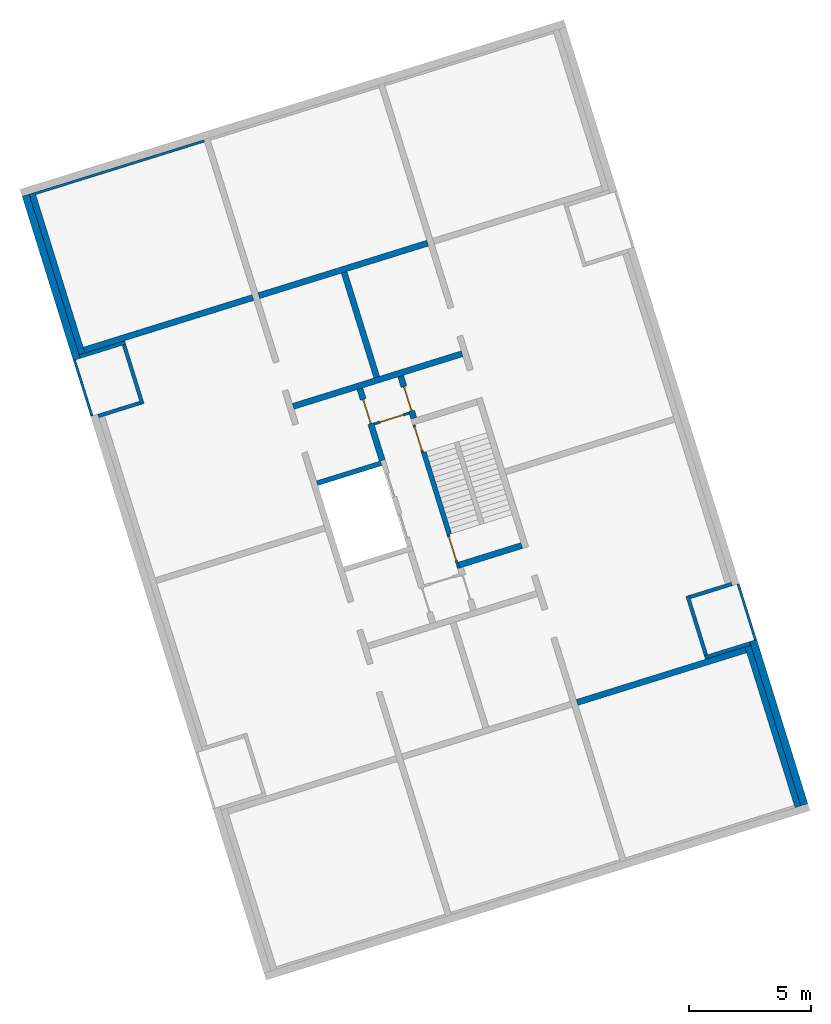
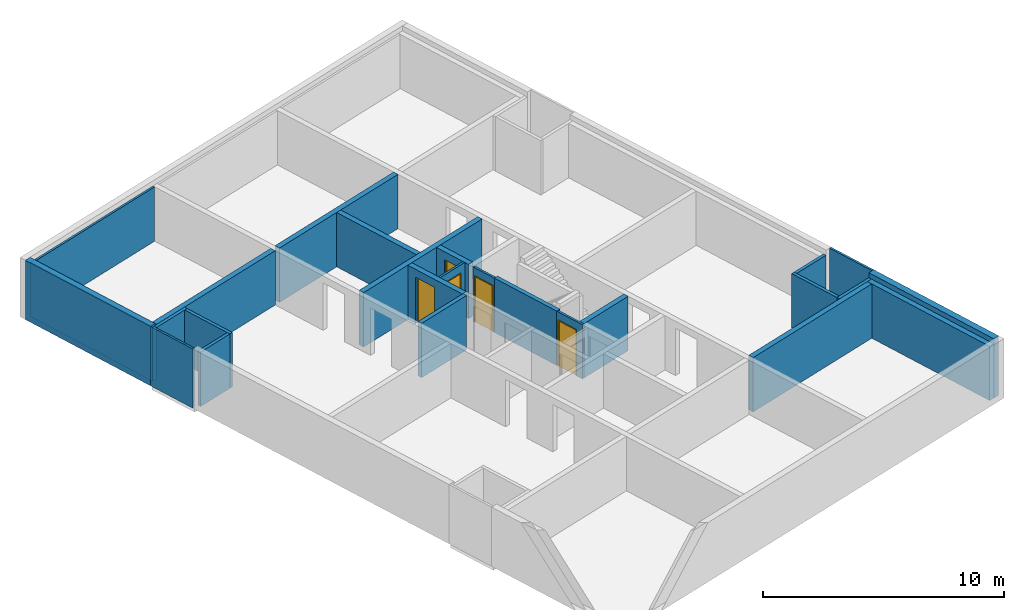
# One storey, part 2 of 4: 26 walls, 5 doors, 5 openings.
"""IFC4 building model written with IfcOpenShell, lengths in metres."""

from ifc_helpers import new_model, entity, si_unit, converted_unit, direction, frame, origin, place, context, subcontext, project, spatial, indexed_curve, outline, extrude, polygons, source, transform, mapped, material, constituent, constituent_set, type_object, type_shapes, element, fill, save


model = new_model("IFC4")

# Units and contexts
model_context = context("Model", 3, precision=1e-05, world=origin(), true_north=direction((6.12323399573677e-17, 1.0)))
body_context = subcontext(model_context, "Body", "Model", "MODEL_VIEW")
ifc_project = project(units=[si_unit("LENGTHUNIT", "METRE"), si_unit("AREAUNIT", "SQUARE_METRE"), si_unit("VOLUMEUNIT", "CUBIC_METRE"), converted_unit("PLANEANGLEUNIT", "DEGREE", entity("IfcPlaneAngleMeasure", 0.0174532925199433), si_unit("PLANEANGLEUNIT", "RADIAN"), dimensions=[0, 0, 0, 0, 0, 0, 0])], contexts=[model_context])

# Site, building, storey
site_placement = place(None, frame((13.1347999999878, 11.9886000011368, 0.0), z_axis=(0.0, 0.0, 1.0), x_axis=(0.954770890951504, 0.297342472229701, 0.0)))
site = spatial("IfcSite", under=ifc_project, at=site_placement, Name="Schiehaven", CompositionType="ELEMENT")
building_placement = place(site_placement, origin())
building = spatial("IfcBuilding", under=site, at=building_placement, Name="VORM huis", CompositionType="ELEMENT")
storey_placement = place(building_placement, frame((0.0, 0.0, 3.9)))
storey = spatial("IfcBuildingStorey", under=building, at=storey_placement, Name="01 eerste verdieping", CompositionType="ELEMENT", Elevation=3.9)

# Walls
ifc_material_1 = material(Name="beton_gewapend_ihw", Category="Miscellaneous")
wall_type_1 = type_object("IfcWallType", Name="Basic Wall:28_WA_skelet_wand 250mm_gen", PredefinedType="STANDARD")
wall_1_placement = place(storey_placement, frame((12.6250000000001, 22.2, 0.0)))
element("IfcWall", 1, at=wall_1_placement, inside=storey, type_object=wall_type_1, material=ifc_material_1, Name="Constructieve wand", ObjectType="Wand", PredefinedType="NOTDEFINED", context=body_context, shape_type="SweptSolid", body=[
    extrude(outline(indexed_curve([(7.25000000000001, 0.125000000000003), (-4.73312500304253e-16, 0.125000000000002), (4.73312500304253e-16, -0.125000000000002), (7.25000000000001, -0.125), (7.25000000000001, 0.125000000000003)], self_intersect=False)), origin(), (0.0, 0.0, 1.0), 2.75),
])
wall_2_placement = place(storey_placement, frame((5.0, 26.825, 0.0), z_axis=(0.0, 0.0, 1.0), x_axis=(0.0, 1.0, 0.0)))
element("IfcWall", 2, at=wall_2_placement, inside=storey, type_object=wall_type_1, material=ifc_material_1, Name="Constructieve wand", ObjectType="Wand", PredefinedType="NOTDEFINED", context=body_context, shape_type="SweptSolid", body=[
    extrude(outline(indexed_curve([(6.90000000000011, 0.125), (-6.66983376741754e-16, 0.125), (6.66983376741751e-16, -0.125), (6.90000000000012, -0.125), (6.90000000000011, 0.125)], self_intersect=False)), origin(), (0.0, 0.0, 1.0), 2.75),
])
wall_3_placement = place(storey_placement, frame((27.5000000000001, 0.37499999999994, 0.0), z_axis=(0.0, 0.0, 1.0), x_axis=(0.0, 1.0, 0.0)))
element("IfcWall", 3, at=wall_3_placement, inside=storey, type_object=wall_type_1, material=ifc_material_1, Name="Constructieve wand", ObjectType="Wand", PredefinedType="NOTDEFINED", context=body_context, shape_type="SweptSolid", body=[
    extrude(outline(indexed_curve([(6.90000000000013, 0.125000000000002), (7.84686325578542e-17, 0.125000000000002), (-7.84686325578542e-17, -0.125000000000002), (6.90000000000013, -0.125000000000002), (6.90000000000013, 0.125000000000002)], self_intersect=False)), origin(), (0.0, 0.0, 1.0), 2.75),
])
ifc_material_2 = material(Name="ntb_ntb_ntb", Category="Miscellaneous")
wall_type_2 = type_object("IfcWallType", Name="Basic Wall:21_WA_gevel_binnenspouwwand 100mm_gen", PredefinedType="STANDARD")
wall_4_placement = place(storey_placement, frame((5.12500000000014, 33.675, 0.0)))
element("IfcWall", 4, at=wall_4_placement, inside=storey, type_object=wall_type_2, material=ifc_material_2, Name="Binnenspouwblad", ObjectType="Wand", PredefinedType="NOTDEFINED", context=body_context, shape_type="SweptSolid", body=[
    extrude(outline(indexed_curve([(7.24999999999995, 0.0500000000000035), (-1.62265042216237e-16, 0.0500000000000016), (1.62265042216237e-16, -0.0500000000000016), (7.24999999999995, -0.0499999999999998), (7.24999999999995, 0.0500000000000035)], self_intersect=False)), origin(), (0.0, 0.0, 1.0), 2.75),
])
wall_type_3 = type_object("IfcWallType", Name="Basic Wall: 300mm_gen", PredefinedType="STANDARD")
wall_5_placement = place(storey_placement, frame((4.7250000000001, 26.675, 0.0), z_axis=(0.0, 0.0, 1.0), x_axis=(0.0, 1.0, 0.0)))
element("IfcWall", 5, at=wall_5_placement, inside=storey, type_object=wall_type_3, material=ifc_material_2, Name="Gevelwand", ObjectType="Wand", PredefinedType="NOTDEFINED", context=body_context, shape_type="SweptSolid", body=[
    extrude(outline(indexed_curve([(7.04999999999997, 0.15), (-3.15836246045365e-16, 0.15), (3.15836246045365e-16, -0.15), (7.04999999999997, -0.15), (7.04999999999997, 0.15)], self_intersect=False)), origin(), (0.0, 0.0, 1.0), 3.0),
])
wall_6_placement = place(storey_placement, frame((27.7750000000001, 0.374999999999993, 0.0), z_axis=(0.0, 0.0, 1.0), x_axis=(0.0, 1.0, 0.0)))
element("IfcWall", 6, at=wall_6_placement, inside=storey, type_object=wall_type_3, material=ifc_material_2, Name="Gevelwand", ObjectType="Wand", PredefinedType="NOTDEFINED", context=body_context, shape_type="SweptSolid", body=[
    extrude(outline(indexed_curve([(7.05000000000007, 0.15), (9.02389274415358e-17, 0.150000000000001), (-9.02389274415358e-17, -0.150000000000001), (7.05000000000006, -0.150000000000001), (7.05000000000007, 0.15)], self_intersect=False)), origin(), (0.0, 0.0, 1.0), 3.0),
])
ifc_material_3 = material(Name="beton_gewapend_prefab-element", Category="Miscellaneous")
wall_type_4 = type_object("IfcWallType", Name="Basic Wall:28_WA_skelet_wand 200mm_gen", PredefinedType="STANDARD")
wall_7_placement = place(storey_placement, frame((15.3750000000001, 18.9, 0.0), z_axis=(0.0, 0.0, 1.0), x_axis=(-1.0, 0.0, 0.0)))
element("IfcWall", 7, at=wall_7_placement, inside=storey, type_object=wall_type_4, material=ifc_material_3, Name="Constructieve wand", ObjectType="Wand", PredefinedType="NOTDEFINED", context=body_context, shape_type="SweptSolid", body=[
    extrude(outline(indexed_curve([(2.75, 0.100000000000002), (-2.05391259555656e-16, 0.100000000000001), (2.05391259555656e-16, -0.100000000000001), (2.75, -0.0999999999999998), (2.75, 0.100000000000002)], self_intersect=False)), origin(), (0.0, 0.0, 1.0), 2.75),
])
wall_8_placement = place(storey_placement, frame((17.1750000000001, 15.29, 0.0), z_axis=(0.0, 0.0, 1.0), x_axis=(0.0, 1.0, 0.0)))
element("IfcWall", 8, at=wall_8_placement, inside=storey, type_object=wall_type_4, material=ifc_material_3, Name="Constructieve wand", ObjectType="Wand", PredefinedType="NOTDEFINED", context=body_context, shape_type="SweptSolid", body=[
    extrude(outline(indexed_curve([(3.52, 0.0999999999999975), (-5.13023966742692e-16, 0.0999999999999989), (5.13023966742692e-16, -0.0999999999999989), (3.52, -0.1), (3.52, 0.0999999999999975)], self_intersect=False)), origin(), (0.0, 0.0, 1.0), 2.75),
])

# Wall, opening, door
wall_type_5 = type_object("IfcWallType", Name="Basic Wall:22_WA_afbouw_binnenwand 250mm_gen", PredefinedType="STANDARD")
wall_9_placement = place(storey_placement, frame((17.2000000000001, 20.26, 0.0), z_axis=(0.0, 0.0, 1.0), x_axis=(0.0, 1.0, 0.0)))
wall_9 = element("IfcWall", 9, at=wall_9_placement, inside=storey, type_object=wall_type_5, material=ifc_material_2, Name="Binnenwand", ObjectType="Wand", PredefinedType="NOTDEFINED", context=body_context, shape_type="Tessellation", body=[
    polygons([(1.36500000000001, -0.125, 2.34999999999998), (1.36500000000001, -0.125, -5.41433564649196e-16), (1.815, -0.125000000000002, -5.41433564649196e-16), (1.815, -0.125000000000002, 2.75), (0.0, -0.124999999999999, 2.75), (0.0, -0.124999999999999, -5.41433564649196e-16), (0.315000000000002, -0.124999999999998, -5.41433564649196e-16), (0.315000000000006, -0.124999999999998, 2.34999999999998), (1.815, 0.125, -5.41433564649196e-16), (1.36500000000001, 0.124999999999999, -5.41433564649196e-16), (1.36500000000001, 0.124999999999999, 2.34999999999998), (0.315000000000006, 0.125, 2.34999999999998), (0.315000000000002, 0.125, -5.41433564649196e-16), (0.215000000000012, 0.124999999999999, 0.0), (0.0, 0.125, -5.41433564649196e-16), (0.0, 0.125, 2.75), (0.215000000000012, 0.124999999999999, 2.75), (0.315000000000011, 0.125, 2.75), (1.815, 0.125, 2.75)], [[[1, 2, 3, 4, 5, 6, 7, 8]], [[9, 10, 11, 12, 13, 14, 15, 16, 17, 18, 19]], [[7, 6, 15, 14, 13]], [[4, 3, 9, 19]], [[5, 4, 19, 18, 17, 16]], [[6, 5, 16, 15]], [[13, 12, 8, 7]], [[11, 10, 2, 1]], [[12, 11, 1, 8]], [[3, 2, 10, 9]]], closed=True),
])
opening_1_placement = place(wall_9_placement, frame((0.315000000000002, -0.125000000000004, 0.0)))
opening_1 = element("IfcOpeningElement", 10, at=opening_1_placement, cuts=wall_9, Name="Woningtoegangsdeur", PredefinedType="OPENING", context=body_context, shape_type="SweptSolid", body=[
    extrude(outline(indexed_curve([(2.34999999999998, 0.0), (2.34999999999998, 1.05), (0.0, 1.05), (0.0, 0.0), (2.34999999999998, 0.0)], self_intersect=False)), frame((0.0, 0.0, 0.0), z_axis=(0.0, 1.0, 0.0), x_axis=(0.0, 0.0, 1.0)), (0.0, 0.0, 1.0), 0.25),
])
ifc_material_4 = material(Name="PD_a_binnenwandopeningen", Category="Miscellaneous")
ifc_constituent_1 = constituent(ifc_material_4, Name="PD_a_binnenwandopeningen", Category="Miscellaneous")
ifc_material_5 = material(Name="metaal_aluminium_ntb", Category="Miscellaneous")
ifc_constituent_2 = constituent(ifc_material_5, Name="metaal_aluminium_ntb", Category="Miscellaneous")
ifc_constituent_set_1 = constituent_set(constituents=[ifc_constituent_1, ifc_constituent_2])
ifc_constituent_3 = constituent(ifc_material_4, Name="PD_a_binnenwandopeningen", Category="Miscellaneous")
ifc_constituent_4 = constituent(ifc_material_5, Name="Panel", Category="Miscellaneous")
ifc_constituent_set_2 = constituent_set(constituents=[ifc_constituent_3, ifc_constituent_4])
door_type_1 = type_object("IfcDoorType", Name="32_DO_binnendeur enkel:woningtoegangsdeur", OperationType="REVOLVING", PredefinedType="DOOR", material=ifc_constituent_set_2)
shared_shape_1 = source(origin(), body_context, "Body", "SweptSolid", [
    extrude(outline(indexed_curve([(0.475, -1.16249999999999), (0.525000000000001, -1.16249999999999), (0.525000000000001, 1.18749999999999), (-0.525000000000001, 1.18749999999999), (-0.525000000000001, -1.16249999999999), (-0.475, -1.16249999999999), (-0.475, 1.13749999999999), (0.475, 1.13749999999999), (0.475, -1.16249999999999)], self_intersect=False)), frame((0.525000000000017, 0.174999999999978, 1.16249999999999), z_axis=(0.0, -1.0, 0.0), x_axis=(1.0, 0.0, 0.0)), (0.0, 0.0, 1.0), 0.1),
    extrude(outline(indexed_curve([(-0.475, -0.025), (0.475, -0.025), (0.475, 0.025), (-0.475, 0.025), (-0.475, -0.025)], self_intersect=False)), frame((0.525000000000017, 0.12499999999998, 0.0)), (0.0, 0.0, 1.0), 2.29999999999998),
])
type_shapes(door_type_1, [shared_shape_1])
door_1_placement = place(opening_1_placement, origin())
door_1 = element("IfcDoor", 11, at=door_1_placement, inside=storey, type_object=door_type_1, material=ifc_constituent_set_1, Name="Woningtoegangsdeur", ObjectType="Deur", OperationType="REVOLVING", OverallHeight=2.34999999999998, OverallWidth=1.05, PredefinedType="DOOR", context=body_context, shape_type="MappedRepresentation", body=[
    mapped(shared_shape_1, transform((0.0, 0.0, 0.0), scale=1.0)),
])
fill(opening_1, door_1)

wall_10_placement = place(storey_placement, frame((15.4500000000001, 19.0, 0.0), z_axis=(0.0, 0.0, 1.0), x_axis=(0.0, 1.0, 0.0)))
wall_10 = element("IfcWall", 12, at=wall_10_placement, inside=storey, type_object=wall_type_5, material=ifc_material_2, Name="Binnenwand", ObjectType="Wand", PredefinedType="NOTDEFINED", context=body_context, shape_type="Tessellation", body=[
    polygons([(2.62500000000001, -0.124999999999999, 2.34999999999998), (2.62500000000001, -0.124999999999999, -5.41433564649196e-16), (3.075, -0.124999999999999, -5.41433564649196e-16), (3.075, -0.124999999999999, 2.75), (1.575, -0.124999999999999, 2.75), (1.475, -0.124999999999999, 2.75), (2.16573425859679e-15, -0.124999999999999, 2.75), (2.16573425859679e-15, -0.124999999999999, -5.41433564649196e-16), (1.475, -0.124999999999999, 0.0), (1.57500000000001, -0.124999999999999, -5.41433564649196e-16), (1.57500000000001, -0.124999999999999, 2.34999999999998), (3.075, 0.125000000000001, -5.41433564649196e-16), (2.62500000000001, 0.125000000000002, -5.41433564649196e-16), (2.62500000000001, 0.125000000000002, 2.34999999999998), (1.575, 0.125000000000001, 2.34999999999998), (1.575, 0.125000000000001, -5.41433564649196e-16), (0.0, 0.125000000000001, -5.41433564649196e-16), (0.0, 0.125000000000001, 2.75), (3.075, 0.125000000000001, 2.75)], [[[1, 2, 3, 4, 5, 6, 7, 8, 9, 10, 11]], [[12, 13, 14, 15, 16, 17, 18, 19]], [[10, 9, 8, 17, 16]], [[4, 3, 12, 19]], [[7, 6, 5, 4, 19, 18]], [[8, 7, 18, 17]], [[16, 15, 11, 10]], [[14, 13, 2, 1]], [[15, 14, 1, 11]], [[3, 2, 13, 12]]], closed=True),
])
opening_2_placement = place(wall_10_placement, frame((2.62500000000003, 0.124999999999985, 0.0)))
opening_2 = element("IfcOpeningElement", 13, at=opening_2_placement, cuts=wall_10, Name="Woningtoegangsdeur", PredefinedType="OPENING", context=body_context, shape_type="SweptSolid", body=[
    extrude(outline(indexed_curve([(2.34999999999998, 1.05), (0.0, 1.05), (0.0, 0.0), (2.34999999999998, 0.0), (2.34999999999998, 1.05)], self_intersect=False)), frame((0.0, 0.0, 0.0), z_axis=(0.0, -1.0, 0.0), x_axis=(0.0, 0.0, 1.0)), (0.0, 0.0, 1.0), 0.25),
])
ifc_constituent_5 = constituent(ifc_material_4, Name="PD_a_binnenwandopeningen", Category="Miscellaneous")
ifc_constituent_6 = constituent(ifc_material_5, Name="metaal_aluminium_ntb", Category="Miscellaneous")
ifc_constituent_set_3 = constituent_set(constituents=[ifc_constituent_5, ifc_constituent_6])
ifc_constituent_7 = constituent(ifc_material_4, Name="PD_a_binnenwandopeningen", Category="Miscellaneous")
ifc_constituent_8 = constituent(ifc_material_5, Name="Panel", Category="Miscellaneous")
ifc_constituent_set_4 = constituent_set(constituents=[ifc_constituent_7, ifc_constituent_8])
door_type_2 = type_object("IfcDoorType", Name="32_DO_binnendeur enkel:woningtoegangsdeur", OperationType="REVOLVING", PredefinedType="DOOR", material=ifc_constituent_set_4)
shared_shape_2 = source(origin(), body_context, "Body", "SweptSolid", [
    extrude(outline(indexed_curve([(-1.16249999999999, -0.525000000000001), (1.18749999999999, -0.525), (1.18749999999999, 0.525000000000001), (-1.16249999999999, 0.525000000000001), (-1.16249999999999, 0.475), (1.13749999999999, 0.475), (1.13749999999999, -0.475), (-1.16249999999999, -0.475), (-1.16249999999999, -0.525000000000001)], self_intersect=False)), frame((0.525000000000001, 0.0749999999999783, 1.16249999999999), z_axis=(0.0, 1.0, 0.0), x_axis=(0.0, 0.0, 1.0)), (0.0, 0.0, 1.0), 0.1),
    extrude(outline(indexed_curve([(-0.025, -0.475), (0.025, -0.475), (0.025, 0.475), (-0.025, 0.475), (-0.025, -0.475)], self_intersect=False)), frame((0.525000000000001, 0.12499999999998, 0.0), z_axis=(0.0, 0.0, 1.0), x_axis=(0.0, 1.0, 0.0)), (0.0, 0.0, 1.0), 2.29999999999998),
])
type_shapes(door_type_2, [shared_shape_2])
door_2_placement = place(opening_2_placement, frame((0.0, 0.0, 0.0), z_axis=(0.0, 0.0, 1.0), x_axis=(-1.0, 0.0, 0.0)))
door_2 = element("IfcDoor", 14, at=door_2_placement, inside=storey, type_object=door_type_2, material=ifc_constituent_set_3, Name="Woningtoegangsdeur", ObjectType="Deur", OperationType="REVOLVING", OverallHeight=2.34999999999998, OverallWidth=1.05, PredefinedType="DOOR", context=body_context, shape_type="MappedRepresentation", body=[
    mapped(shared_shape_2, transform((0.0, 0.0, 0.0), scale=1.0)),
])
fill(opening_2, door_2)

# Walls
wall_11_placement = place(storey_placement, frame((16.2500000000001, 22.325, 0.0), z_axis=(0.0, 0.0, 1.0), x_axis=(0.0, 1.0, 0.0)))
element("IfcWall", 15, at=wall_11_placement, inside=storey, type_object=wall_type_5, material=ifc_material_2, Name="Binnenwand", ObjectType="Wand", PredefinedType="NOTDEFINED", context=body_context, shape_type="SweptSolid", body=[
    extrude(outline(indexed_curve([(4.49999999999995, 0.124999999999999), (-8.33495326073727e-16, 0.125), (8.33495326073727e-16, -0.125), (4.49999999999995, -0.125), (4.49999999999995, 0.124999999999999)], self_intersect=False)), origin(), (0.0, 0.0, 1.0), 2.75),
])
wall_12_placement = place(storey_placement, frame((19.8750000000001, 13.965, 0.0), z_axis=(0.0, 0.0, 1.0), x_axis=(-1.0, 0.0, 0.0)))
element("IfcWall", 16, at=wall_12_placement, inside=storey, type_object=wall_type_5, material=ifc_material_2, Name="Binnenwand", ObjectType="Wand", PredefinedType="NOTDEFINED", context=body_context, shape_type="SweptSolid", body=[
    extrude(outline(indexed_curve([(2.70000000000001, 0.124999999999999), (-3.69797181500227e-16, 0.125), (3.69797181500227e-16, -0.125), (2.70000000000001, -0.125), (2.70000000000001, 0.124999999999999)], self_intersect=False)), origin(), (0.0, 0.0, 1.0), 2.75),
])
wall_13_placement = place(storey_placement, frame((20.125, 7.15000000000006, 0.0)))
element("IfcWall", 17, at=wall_13_placement, inside=storey, type_object=wall_type_5, material=ifc_material_2, Name="Binnenwand", ObjectType="Wand", PredefinedType="NOTDEFINED", context=body_context, shape_type="SweptSolid", body=[
    extrude(outline(indexed_curve([(7.24999999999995, 0.124999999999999), (-1.92055213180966e-16, 0.125), (1.92055213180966e-16, -0.125), (7.24999999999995, -0.125000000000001), (7.24999999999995, 0.124999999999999)], self_intersect=False)), origin(), (0.0, 0.0, 1.0), 2.75),
])
wall_14_placement = place(storey_placement, frame((12.6250000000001, 26.95, 0.0)))
element("IfcWall", 18, at=wall_14_placement, inside=storey, type_object=wall_type_5, material=ifc_material_2, Name="Binnenwand", ObjectType="Wand", PredefinedType="NOTDEFINED", context=body_context, shape_type="SweptSolid", body=[
    extrude(outline(indexed_curve([(7.24999999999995, 0.124999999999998), (-7.57222733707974e-16, 0.125000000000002), (7.57222733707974e-16, -0.125000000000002), (7.24999999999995, -0.125000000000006), (7.24999999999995, 0.124999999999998)], self_intersect=False)), origin(), (0.0, 0.0, 1.0), 2.75),
])
wall_15_placement = place(storey_placement, frame((5.12500000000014, 26.95, 0.0)))
element("IfcWall", 19, at=wall_15_placement, inside=storey, type_object=wall_type_5, material=ifc_material_2, Name="Binnenwand", ObjectType="Wand", PredefinedType="NOTDEFINED", context=body_context, shape_type="SweptSolid", body=[
    extrude(outline(indexed_curve([(7.24999999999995, 0.124999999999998), (4.69673759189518e-16, 0.125000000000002), (-4.69673759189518e-16, -0.125000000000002), (7.24999999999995, -0.125000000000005), (7.24999999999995, 0.124999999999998)], self_intersect=False)), origin(), (0.0, 0.0, 1.0), 2.75),
])

# Wall, opening, door
wall_type_6 = type_object("IfcWallType", Name="Basic Wall:22_WA_afbouw_binnenwand 100mm_gen", PredefinedType="STANDARD")
wall_16_placement = place(storey_placement, frame((17.1250000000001, 13.84, 0.0), z_axis=(0.0, 0.0, 1.0), x_axis=(0.0, 1.0, 0.0)))
wall_16 = element("IfcWall", 20, at=wall_16_placement, inside=storey, type_object=wall_type_6, material=ifc_material_2, Name="Binnenwand", ObjectType="Wand", PredefinedType="NOTDEFINED", context=body_context, shape_type="Tessellation", body=[
    polygons([(1.44999999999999, -0.0500000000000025, -5.41433564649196e-16), (1.44999999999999, -0.0500000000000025, 2.75), (0.249999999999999, -0.0500000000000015, 2.75), (0.0, -0.0500000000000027, 2.75), (0.0, -0.0500000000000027, -5.41433564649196e-16), (0.249999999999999, -0.0500000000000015, 0.0), (0.324999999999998, -0.0500000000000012, -5.41433564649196e-16), (0.324999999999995, -0.0500000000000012, 2.34999999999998), (1.375, -0.0500000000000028, 2.34999999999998), (1.375, -0.0500000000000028, -5.41433564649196e-16), (1.44999999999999, 0.0499999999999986, 2.75), (1.44999999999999, 0.0499999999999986, -5.41433564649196e-16), (1.37499999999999, 0.0499999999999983, -5.41433564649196e-16), (1.37499999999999, 0.0500000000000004, 2.34999999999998), (0.324999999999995, 0.0500000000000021, 2.34999999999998), (0.324999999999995, 0.0499999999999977, -5.41433564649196e-16), (-2.16573425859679e-15, 0.0500000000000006, -5.41433564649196e-16), (-2.16573425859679e-15, 0.0500000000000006, 2.75)], [[[1, 2, 3, 4, 5, 6, 7, 8, 9, 10]], [[11, 12, 13, 14, 15, 16, 17, 18]], [[5, 17, 16, 7, 6]], [[2, 1, 12, 11]], [[4, 3, 2, 11, 18]], [[15, 8, 7, 16]], [[9, 14, 13, 10]], [[8, 15, 14, 9]], [[5, 4, 18, 17]], [[12, 1, 10, 13]]], closed=True),
])
opening_3_placement = place(wall_16_placement, frame((1.375, 0.0499999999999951, 0.0)))
opening_3 = element("IfcOpeningElement", 21, at=opening_3_placement, cuts=wall_16, Name="Vluchtdeur", PredefinedType="OPENING", context=body_context, shape_type="SweptSolid", body=[
    extrude(outline(indexed_curve([(2.34999999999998, 1.05), (0.0, 1.05), (0.0, 1.35358391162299e-15), (2.34999999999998, 1.35358391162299e-15), (2.34999999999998, 1.05)], self_intersect=False)), frame((0.0, 0.0, 0.0), z_axis=(0.0, -1.0, 0.0), x_axis=(0.0, 0.0, 1.0)), (0.0, 0.0, 1.0), 0.1),
])
ifc_constituent_9 = constituent(ifc_material_4, Name="PD_a_binnenwandopeningen", Category="Miscellaneous")
ifc_constituent_10 = constituent(ifc_material_5, Name="metaal_aluminium_ntb", Category="Miscellaneous")
ifc_constituent_set_5 = constituent_set(constituents=[ifc_constituent_9, ifc_constituent_10])
ifc_constituent_11 = constituent(ifc_material_4, Name="PD_a_binnenwandopeningen", Category="Miscellaneous")
ifc_constituent_12 = constituent(ifc_material_5, Name="Panel", Category="Miscellaneous")
ifc_constituent_set_6 = constituent_set(constituents=[ifc_constituent_11, ifc_constituent_12])
door_type_3 = type_object("IfcDoorType", Name="32_DO_binnendeur enkel:binnendeur zelfsluitend 30min", OperationType="NOTDEFINED", PredefinedType="DOOR", material=ifc_constituent_set_6)
shared_shape_3 = source(origin(), body_context, "Body", "SweptSolid", [
    extrude(outline(indexed_curve([(-1.16249999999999, -0.525000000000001), (1.18749999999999, -0.525), (1.18749999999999, 0.525), (-1.16249999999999, 0.525), (-1.16249999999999, 0.475), (1.13749999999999, 0.475), (1.13749999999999, -0.475), (-1.16249999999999, -0.475), (-1.16249999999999, -0.525000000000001)], self_intersect=False)), frame((0.525000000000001, 0.0, 1.16249999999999), z_axis=(0.0, 1.0, 0.0), x_axis=(0.0, 0.0, 1.0)), (0.0, 0.0, 1.0), 0.1),
    extrude(outline(indexed_curve([(-0.025, -0.475), (0.025, -0.475), (0.025, 0.475), (-0.025, 0.475), (-0.025, -0.475)], self_intersect=False)), frame((0.525000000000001, 0.0499999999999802, 0.0), z_axis=(0.0, 0.0, 1.0), x_axis=(0.0, 1.0, 0.0)), (0.0, 0.0, 1.0), 2.29999999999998),
])
type_shapes(door_type_3, [shared_shape_3])
door_3_placement = place(opening_3_placement, frame((0.0, 0.0, 0.0), z_axis=(0.0, 0.0, 1.0), x_axis=(-1.0, 0.0, 0.0)))
door_3 = element("IfcDoor", 22, at=door_3_placement, inside=storey, type_object=door_type_3, material=ifc_constituent_set_5, Name="Vluchtdeur", ObjectType="Deur", OperationType="NOTDEFINED", OverallHeight=2.34999999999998, OverallWidth=1.05, PredefinedType="DOOR", context=body_context, shape_type="MappedRepresentation", body=[
    mapped(shared_shape_3, transform((0.0, 0.0, 0.0), scale=1.0)),
])
fill(opening_3, door_3)

wall_17_placement = place(storey_placement, frame((17.1250000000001, 20.01, 0.0), z_axis=(0.0, 0.0, 1.0), x_axis=(0.0, -1.0, 0.0)))
wall_17 = element("IfcWall", 23, at=wall_17_placement, inside=storey, type_object=wall_type_6, material=ifc_material_2, Name="Binnenwand", ObjectType="Wand", PredefinedType="NOTDEFINED", context=body_context, shape_type="Tessellation", body=[
    polygons([(1.19999999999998, -0.050000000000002, -5.41433564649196e-16), (1.19999999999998, -0.050000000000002, 2.75), (0.0, -0.0500000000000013, 2.75), (0.0, -0.0500000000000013, -5.41433564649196e-16), (0.0749999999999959, -0.0500000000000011, -5.41433564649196e-16), (0.0749999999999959, -0.0500000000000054, 2.34999999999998), (1.125, -0.0500000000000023, 2.34999999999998), (1.125, -0.0500000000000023, -5.41433564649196e-16), (1.19999999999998, 0.0499999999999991, 2.75), (1.19999999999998, 0.0499999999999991, -5.41433564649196e-16), (1.125, 0.0499999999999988, -5.41433564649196e-16), (1.125, 0.0499999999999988, 2.34999999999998), (0.0749999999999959, 0.0499999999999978, 2.34999999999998), (0.0749999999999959, 0.0499999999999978, -5.41433564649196e-16), (0.0, 0.0500000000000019, -5.41433564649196e-16), (0.0, 0.0500000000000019, 2.75)], [[[1, 2, 3, 4, 5, 6, 7, 8]], [[9, 10, 11, 12, 13, 14, 15, 16]], [[4, 15, 14, 5]], [[2, 1, 10, 9]], [[3, 2, 9, 16]], [[4, 3, 16, 15]], [[13, 6, 5, 14]], [[6, 13, 12, 7]], [[7, 12, 11, 8]], [[10, 1, 8, 11]]], closed=True),
])
opening_4_placement = place(wall_17_placement, frame((0.0749999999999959, -0.0499999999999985, 0.0)))
opening_4 = element("IfcOpeningElement", 24, at=opening_4_placement, cuts=wall_17, Name="Vluchtdeur", PredefinedType="OPENING", context=body_context, shape_type="SweptSolid", body=[
    extrude(outline(indexed_curve([(2.34999999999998, 1.05), (0.0, 1.05), (0.0, -3.51974282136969e-30), (2.34999999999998, -3.51974282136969e-30), (2.34999999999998, 1.05)], self_intersect=False)), frame((0.0, 0.0, 0.0), z_axis=(0.0, 1.0, 0.0), x_axis=(0.0, 0.0, 1.0)), (0.0, 0.0, 1.0), 0.1),
])
ifc_constituent_13 = constituent(ifc_material_4, Name="PD_a_binnenwandopeningen", Category="Miscellaneous")
ifc_constituent_14 = constituent(ifc_material_5, Name="metaal_aluminium_ntb", Category="Miscellaneous")
ifc_constituent_set_7 = constituent_set(constituents=[ifc_constituent_13, ifc_constituent_14])
door_4_placement = place(opening_4_placement, origin())
door_4 = element("IfcDoor", 25, at=door_4_placement, inside=storey, type_object=door_type_3, material=ifc_constituent_set_7, Name="Vluchtdeur", ObjectType="Deur", OperationType="NOTDEFINED", OverallHeight=2.34999999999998, OverallWidth=1.05, PredefinedType="DOOR", context=body_context, shape_type="MappedRepresentation", body=[
    mapped(shared_shape_3, transform((0.0, 0.0, 0.0), scale=1.0)),
])
fill(opening_4, door_4)

wall_18_placement = place(storey_placement, frame((17.0750000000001, 20.525, 0.0), z_axis=(0.0, 0.0, 1.0), x_axis=(-1.0, 0.0, 0.0)))
wall_18 = element("IfcWall", 26, at=wall_18_placement, inside=storey, type_object=wall_type_6, material=ifc_material_2, Name="Binnenwand", ObjectType="Wand", PredefinedType="NOTDEFINED", context=body_context, shape_type="Tessellation", body=[
    polygons([(1.5, -0.0499999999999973, 2.75), (7.85851977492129e-16, -0.0499999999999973, 2.75), (7.85851977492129e-16, -0.0499999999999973, 2.34999999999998), (7.85851977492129e-16, -0.0499999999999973, -5.41433564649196e-16), (0.224999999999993, -0.0499999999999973, -5.41433564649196e-16), (0.224999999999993, -0.0499999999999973, 2.34999999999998), (1.27499999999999, -0.0499999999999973, 2.34999999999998), (1.27499999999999, -0.0499999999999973, -5.41433564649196e-16), (1.5, -0.0499999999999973, -5.41433564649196e-16), (1.5, -0.0499999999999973, 2.34999999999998), (8.45188811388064e-16, 0.0500000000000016, 2.75), (1.5, 0.0500000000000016, 2.75), (1.5, 0.0500000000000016, -5.41433564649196e-16), (1.27499999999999, 0.0500000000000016, -5.41433564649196e-16), (1.27499999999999, 0.0500000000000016, 2.34999999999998), (0.224999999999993, 0.0500000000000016, 2.34999999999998), (0.224999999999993, 0.0500000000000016, -5.41433564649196e-16), (8.45188811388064e-16, 0.0500000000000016, -5.41433564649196e-16)], [[[1, 2, 3, 4, 5, 6, 7, 8, 9, 10]], [[11, 12, 13, 14, 15, 16, 17, 18]], [[4, 18, 17, 5]], [[2, 1, 12, 11]], [[16, 6, 5, 17]], [[6, 16, 15, 7]], [[7, 15, 14, 8]], [[1, 10, 9, 13, 12]], [[4, 3, 2, 11, 18]], [[13, 9, 8, 14]]], closed=True),
])
opening_5_placement = place(wall_18_placement, frame((0.224999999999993, -0.0500000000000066, 0.0)))
opening_5 = element("IfcOpeningElement", 27, at=opening_5_placement, cuts=wall_18, Name="Vluchtdeur", PredefinedType="OPENING", context=body_context, shape_type="SweptSolid", body=[
    extrude(outline(indexed_curve([(2.34999999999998, 1.05), (0.0, 1.05), (0.0, 1.35358391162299e-15), (2.34999999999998, 1.35358391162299e-15), (2.34999999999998, 1.05)], self_intersect=False)), frame((0.0, 0.0, 0.0), z_axis=(0.0, 1.0, 0.0), x_axis=(0.0, 0.0, 1.0)), (0.0, 0.0, 1.0), 0.1),
])
ifc_constituent_15 = constituent(ifc_material_4, Name="PD_a_binnenwandopeningen", Category="Miscellaneous")
ifc_constituent_16 = constituent(ifc_material_5, Name="metaal_aluminium_ntb", Category="Miscellaneous")
ifc_constituent_set_8 = constituent_set(constituents=[ifc_constituent_15, ifc_constituent_16])
door_5_placement = place(opening_5_placement, origin())
door_5 = element("IfcDoor", 28, at=door_5_placement, inside=storey, type_object=door_type_3, material=ifc_constituent_set_8, Name="Vluchtdeur", ObjectType="Deur", OperationType="NOTDEFINED", OverallHeight=2.34999999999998, OverallWidth=1.05, PredefinedType="DOOR", context=body_context, shape_type="MappedRepresentation", body=[
    mapped(shared_shape_3, transform((0.0, 0.0, 0.0), scale=1.0)),
])
fill(opening_5, door_5)

# Walls
wall_type_7 = type_object("IfcWallType", Name="Basic Wall: 150mm_gen", PredefinedType="STANDARD")
wall_19_placement = place(storey_placement, frame((4.87500000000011, 26.75, 0.0)))
element("IfcWall", 29, at=wall_19_placement, inside=storey, type_object=wall_type_7, material=ifc_material_2, Name="Gevelwand", ObjectType="Wand", PredefinedType="NOTDEFINED", context=body_context, shape_type="SweptSolid", body=[
    extrude(outline(indexed_curve([(1.95000000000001, 0.0749999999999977), (-2.34088304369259e-16, 0.0750000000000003), (2.34088304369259e-16, -0.0750000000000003), (1.95000000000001, -0.0750000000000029), (1.95000000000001, 0.0749999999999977)], self_intersect=False)), origin(), (0.0, 0.0, 1.0), 2.75),
])
wall_20_placement = place(storey_placement, frame((6.75000000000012, 26.675, 0.0), z_axis=(0.0, 0.0, 1.0), x_axis=(0.0, -1.0, 0.0)))
element("IfcWall", 30, at=wall_20_placement, inside=storey, type_object=wall_type_7, material=ifc_material_2, Name="Gevelwand", ObjectType="Wand", PredefinedType="NOTDEFINED", context=body_context, shape_type="SweptSolid", body=[
    extrude(outline(indexed_curve([(2.55, 0.0750000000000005), (-4.831491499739e-16, 0.0750000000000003), (4.831491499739e-16, -0.0750000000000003), (2.55000000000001, -0.0750000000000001), (2.55, 0.0750000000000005)], self_intersect=False)), origin(), (0.0, 0.0, 1.0), 2.75),
])
wall_21_placement = place(storey_placement, frame((6.6750000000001, 24.2, 0.0), z_axis=(0.0, 0.0, 1.0), x_axis=(-1.0, 0.0, 0.0)))
element("IfcWall", 31, at=wall_21_placement, inside=storey, type_object=wall_type_7, material=ifc_material_2, Name="Gevelwand", ObjectType="Wand", PredefinedType="NOTDEFINED", context=body_context, shape_type="SweptSolid", body=[
    extrude(outline(indexed_curve([(1.8, 0.0749999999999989), (-4.831491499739e-16, 0.0750000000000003), (4.831491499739e-16, -0.0750000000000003), (1.8, -0.0750000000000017), (1.8, 0.0749999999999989)], self_intersect=False)), origin(), (0.0, 0.0, 1.0), 2.75),
])
wall_22_placement = place(storey_placement, frame((27.6250000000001, 7.35000000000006, 0.0), z_axis=(0.0, 0.0, 1.0), x_axis=(-1.0, 0.0, 0.0)))
element("IfcWall", 32, at=wall_22_placement, inside=storey, type_object=wall_type_7, material=ifc_material_2, Name="Gevelwand", ObjectType="Wand", PredefinedType="NOTDEFINED", context=body_context, shape_type="SweptSolid", body=[
    extrude(outline(indexed_curve([(1.95, 0.0750000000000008), (-1.02139304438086e-16, 0.0750000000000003), (1.02139304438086e-16, -0.0750000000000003), (1.95, -0.0749999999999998), (1.95, 0.0750000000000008)], self_intersect=False)), origin(), (0.0, 0.0, 1.0), 2.75),
])
wall_23_placement = place(storey_placement, frame((25.7500000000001, 7.42500000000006, 0.0), z_axis=(0.0, 0.0, 1.0), x_axis=(0.0, 1.0, 0.0)))
element("IfcWall", 33, at=wall_23_placement, inside=storey, type_object=wall_type_7, material=ifc_material_2, Name="Gevelwand", ObjectType="Wand", PredefinedType="NOTDEFINED", context=body_context, shape_type="SweptSolid", body=[
    extrude(outline(indexed_curve([(2.55, 0.0749999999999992), (-3.51200150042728e-16, 0.0750000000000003), (3.51200150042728e-16, -0.0750000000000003), (2.55, -0.0750000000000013), (2.55, 0.0749999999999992)], self_intersect=False)), origin(), (0.0, 0.0, 1.0), 2.75),
])
wall_24_placement = place(storey_placement, frame((25.8250000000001, 9.90000000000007, 0.0)))
element("IfcWall", 34, at=wall_24_placement, inside=storey, type_object=wall_type_7, material=ifc_material_2, Name="Gevelwand", ObjectType="Wand", PredefinedType="NOTDEFINED", context=body_context, shape_type="SweptSolid", body=[
    extrude(outline(indexed_curve([(1.8, 0.075), (-3.51200150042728e-16, 0.0750000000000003), (3.51200150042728e-16, -0.0750000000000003), (1.8, -0.0750000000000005), (1.8, 0.075)], self_intersect=False)), origin(), (0.0, 0.0, 1.0), 2.75),
])
wall_type_8 = type_object("IfcWallType", Name="Basic Wall: 100mm_gen", PredefinedType="STANDARD")
wall_25_placement = place(storey_placement, frame((4.62500000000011, 26.675, 0.0), z_axis=(0.0, 0.0, 1.0), x_axis=(0.0, -1.0, 0.0)))
element("IfcWall", 35, at=wall_25_placement, inside=storey, type_object=wall_type_8, material=ifc_material_2, Name="Gevelwand", ObjectType="Wand", PredefinedType="NOTDEFINED", context=body_context, shape_type="SweptSolid", body=[
    extrude(outline(indexed_curve([(2.4, 0.0500000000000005), (-2.48129598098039e-16, 0.05), (2.48129598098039e-16, -0.05), (2.4, -0.0499999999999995), (2.4, 0.0500000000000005)], self_intersect=False)), origin(), (0.0, 0.0, 1.0), 3.0),
])
wall_26_placement = place(storey_placement, frame((27.8750000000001, 7.42500000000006, 0.0), z_axis=(0.0, 0.0, 1.0), x_axis=(0.0, 1.0, 0.0)))
element("IfcWall", 36, at=wall_26_placement, inside=storey, type_object=wall_type_8, material=ifc_material_2, Name="Gevelwand", ObjectType="Wand", PredefinedType="NOTDEFINED", context=body_context, shape_type="SweptSolid", body=[
    extrude(outline(indexed_curve([(2.4, 0.050000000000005), (-1.6016359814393e-16, 0.0500000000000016), (1.6016359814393e-16, -0.0500000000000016), (2.4, -0.0499999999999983), (2.4, 0.050000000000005)], self_intersect=False)), origin(), (0.0, 0.0, 1.0), 3.0),
])

save(model, "model.ifc")
